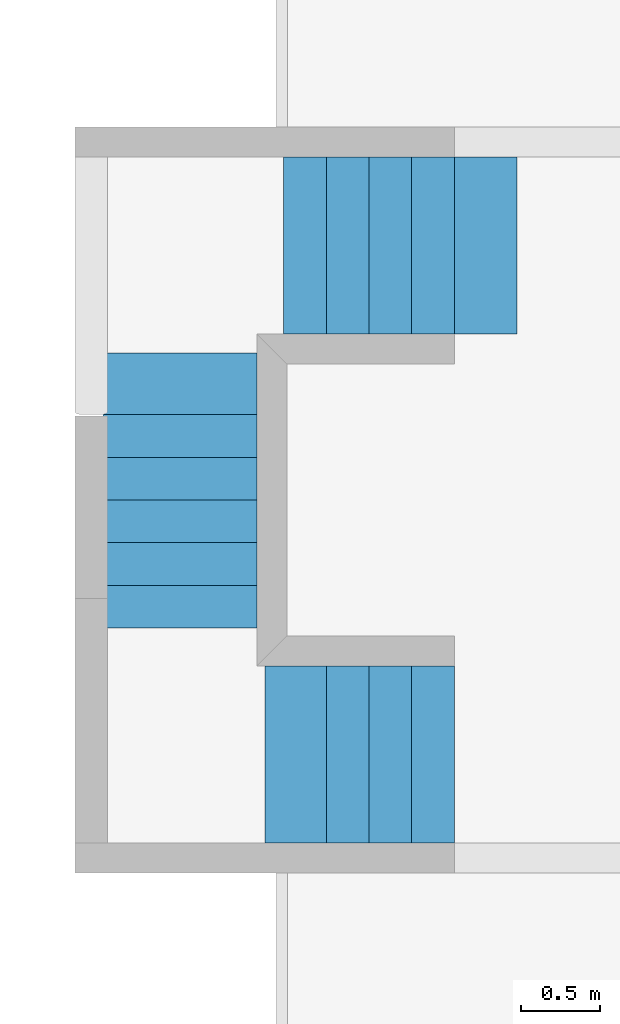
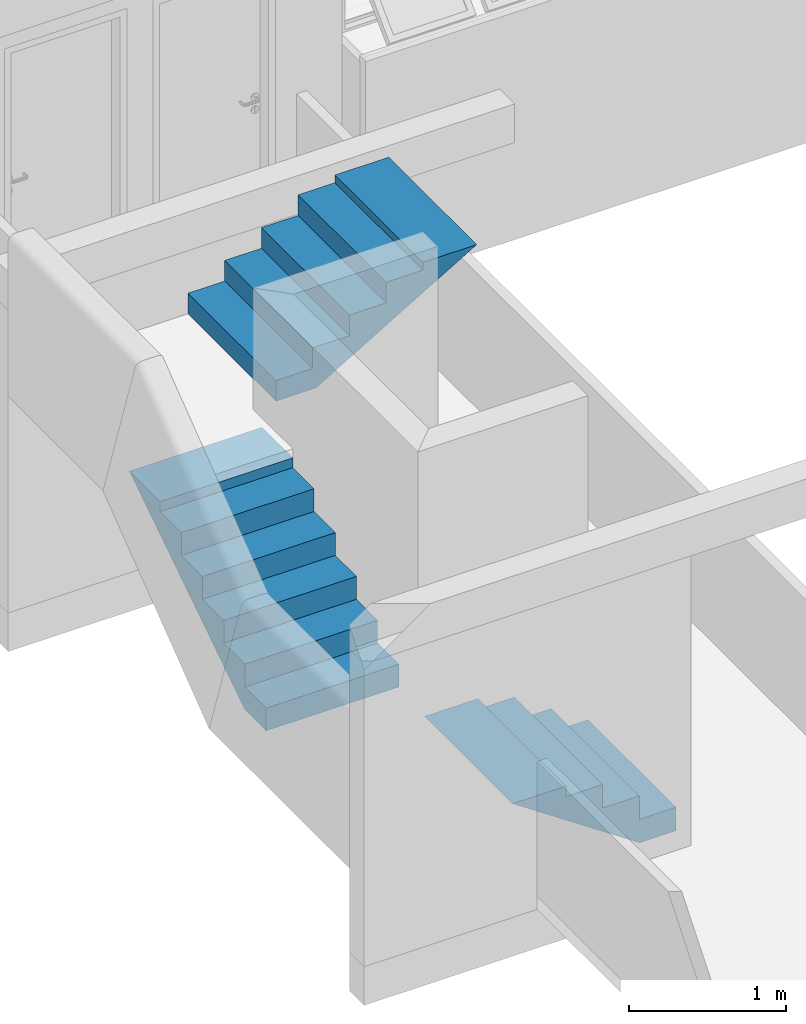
# One storey, part 37 of 37: 3 members, 3 elements without a shape of their own.
"""IFC2X3 building model written with IfcOpenShell, lengths in millimetres."""

import ifcopenshell
import ifcopenshell.guid

model = None  # the IFC model being written
_history = None  # IfcOwnerHistory: only IFC2X3 demands one
_inside = {}  # id of a spatial element -> (the spatial element, [elements in it])
_under = {}  # id of a project, library or spatial element -> (it, [spatial elements below it])
_declared = {}  # id of a project -> (the project, [libraries it declares])
_typed = {}  # id of a type object -> (the type object, [elements of that type])
_made_of = {}  # id of a material, layer set ... -> (it, [elements and type objects made of it])


def new_model(schema):
    """Start an empty IFC model of exactly this schema.

    Asked for "IFC4X3", IfcOpenShell would pick the latest addendum, in which some entities
    have other attributes; the version numbers below select the first issue.
    IFC2X3 requires an IfcOwnerHistory on every rooted entity: one is made here for all.
    """
    global model, _history
    if schema == "IFC4X3":
        model = ifcopenshell.file(schema_version=(4, 3, 0, 0))
    else:
        model = ifcopenshell.file(schema=schema)
    _inside.clear()
    _under.clear()
    _declared.clear()
    _typed.clear()
    _made_of.clear()
    _history = None
    if model.schema == "IFC2X3":
        org = make("IfcOrganization", Name="unknown")
        user = make(
            "IfcPersonAndOrganization",
            ThePerson=make("IfcPerson", FamilyName="unknown"),
            TheOrganization=org,
        )
        app = make(
            "IfcApplication",
            ApplicationDeveloper=org,
            Version="unknown",
            ApplicationFullName="unknown",
            ApplicationIdentifier="unknown",
        )
        _history = make(
            "IfcOwnerHistory",
            OwningUser=user,
            OwningApplication=app,
            ChangeAction="ADDED",
            CreationDate=0,
        )
    return model


def make(cls, **values):
    """One entity of the class cls with the attributes given. An attribute that is None is left unset."""
    return model.create_entity(
        cls, **{name: value for name, value in values.items() if value is not None}
    )


def entity(cls, *values):
    """Any entity or typed value of the class cls, its attributes in the order of the schema. None: left unset."""
    e = model.create_entity(cls)
    for i, value in enumerate(values):
        if value is not None:
            e[i] = value
    return e


def rooted(cls, **values):
    """An entity with a GlobalId (a new one), such as an element, a storey or a relation."""
    return make(cls, GlobalId=ifcopenshell.guid.new(), OwnerHistory=_history, **values)


def si_unit(unit_type, name, prefix=None):
    """IfcSIUnit, for example si_unit("LENGTHUNIT", "METRE", prefix="MILLI")."""
    return make("IfcSIUnit", UnitType=unit_type, Prefix=prefix, Name=name)


def converted_unit(unit_type, name, factor, base, dimensions=None, offset=None):
    """IfcConversionBasedUnit, such as the inch: factor (a typed value) times the base unit."""
    return make(
        "IfcConversionBasedUnit"
        if offset is None
        else "IfcConversionBasedUnitWithOffset",
        ConversionOffset=offset,
        Dimensions=None
        if dimensions is None
        else entity("IfcDimensionalExponents", *dimensions),
        UnitType=unit_type,
        Name=name,
        ConversionFactor=make(
            "IfcMeasureWithUnit", ValueComponent=factor, UnitComponent=base
        ),
    )


def derived_unit(unit_type, elements):
    """IfcDerivedUnit: a product of units, each with its exponent."""
    return make(
        "IfcDerivedUnit",
        Elements=[
            make("IfcDerivedUnitElement", Unit=unit, Exponent=power)
            for unit, power in elements
        ],
        UnitType=unit_type,
    )


def money_unit(currency):
    """IfcMonetaryUnit."""
    return make("IfcMonetaryUnit", Currency=currency)


def assignment(units):
    """IfcUnitAssignment: the units of a project."""
    return None if units is None else make("IfcUnitAssignment", Units=units)


def point(xyz):
    """IfcCartesianPoint."""
    return None if xyz is None else make("IfcCartesianPoint", Coordinates=xyz)


def direction(xyz):
    """IfcDirection."""
    return None if xyz is None else make("IfcDirection", DirectionRatios=xyz)


def frame(location, z_axis=None, x_axis=None):
    """IfcAxis2Placement3D, a coordinate frame: its origin and axes. An axis left out is left unset."""
    return make(
        "IfcAxis2Placement3D",
        Location=point(location),
        Axis=direction(z_axis),
        RefDirection=direction(x_axis),
    )


def origin_with_axes():
    """The frame at (0, 0, 0) with the z axis (0, 0, 1) and the x axis (1, 0, 0) written out."""
    return frame((0.0, 0.0, 0.0), z_axis=(0.0, 0.0, 1.0), x_axis=(1.0, 0.0, 0.0))


def place(relative_to, where):
    """IfcLocalPlacement: puts the frame where relative to a parent placement (None: the world)."""
    return make(
        "IfcLocalPlacement", PlacementRelTo=relative_to, RelativePlacement=where
    )


def context(
    kind, dimensions, precision=None, world=None, true_north=None, identifier=None
):
    """IfcGeometricRepresentationContext, for example the 3D "Model" context."""
    return make(
        "IfcGeometricRepresentationContext",
        ContextIdentifier=identifier,
        ContextType=kind,
        CoordinateSpaceDimension=dimensions,
        Precision=precision,
        WorldCoordinateSystem=world,
        TrueNorth=true_north,
    )


def subcontext(parent, identifier, kind, view, scale=None):
    """IfcGeometricRepresentationSubContext, for example "Body" below "Model"."""
    return make(
        "IfcGeometricRepresentationSubContext",
        ContextIdentifier=identifier,
        ContextType=kind,
        ParentContext=parent,
        TargetScale=scale,
        TargetView=view,
    )


def project(units=None, contexts=None):
    """IfcProject with its units and contexts."""
    return rooted(
        "IfcProject",
        Name="project",
        RepresentationContexts=contexts,
        UnitsInContext=assignment(units),
    )


def spatial(cls, under=None, at=None, **own):
    """A site, building, storey or space (cls), placed at a placement, below another one or the project."""
    s = rooted(cls, ObjectPlacement=at, **own)
    if under is not None:
        _under.setdefault(under.id(), (under, []))[1].append(s)
    return s


def faces_of(points, faces, orient=None, outer=None):
    """IfcFace entities. A face is a list of loops; a loop is a list of indices into points, from 0.

    orient and outer hold one flag for each loop. By default every Orientation is true, the
    first loop of a face is its IfcFaceOuterBound and the others are IfcFaceBound.
    """
    made = []
    for i, loops in enumerate(faces):
        bounds = []
        for j, loop in enumerate(loops):
            is_outer = j == 0 if outer is None else outer[i][j]
            bounds.append(
                make(
                    "IfcFaceOuterBound" if is_outer else "IfcFaceBound",
                    Bound=make("IfcPolyLoop", Polygon=[points[k] for k in loop]),
                    Orientation=True if orient is None else orient[i][j],
                )
            )
        made.append(make("IfcFace", Bounds=bounds))
    return made


def faceted_brep(points, faces, orient=None, outer=None, voids=None):
    """IfcFacetedBrep: a solid bounded by flat faces; with voids (closed shells), ...WithVoids."""
    shared = [point(p) for p in points]
    hull = make("IfcClosedShell", CfsFaces=faces_of(shared, faces, orient, outer))
    if voids is None:
        return make("IfcFacetedBrep", Outer=hull)
    return make(
        "IfcFacetedBrepWithVoids",
        Outer=hull,
        Voids=[
            make(cls, CfsFaces=faces_of(shared, fs, o, b)) for cls, fs, o, b in voids
        ],
    )


def shape(context_of_items, identifier, shape_type, items):
    """IfcShapeRepresentation: the items that make up one representation, for example the "Body"."""
    return make(
        "IfcShapeRepresentation",
        ContextOfItems=context_of_items,
        RepresentationIdentifier=identifier,
        RepresentationType=shape_type,
        Items=items,
    )


def material(Name=None, Category=None):
    """IfcMaterial."""
    return make("IfcMaterial", Name=Name, Category=Category)


def made_of(thing, what):
    """Note that an element or type object is made of a material, layer set ...; save() writes the relation."""
    if what is not None:
        _made_of.setdefault(what.id(), (what, []))[1].append(thing)
    return thing


def type_object(cls, material=None, **own):
    """A type object (cls), such as IfcWallType, which elements share."""
    return made_of(rooted(cls, **own), material)


def element(
    cls,
    number,
    at=None,
    inside=None,
    cuts=None,
    type_object=None,
    material=None,
    context=None,
    identifier="Body",
    shape_type=None,
    held_by="IfcProductDefinitionShape",
    body=None,
    shapes=None,
    **own,
):
    """One element of the class cls, such as IfcWall. Its Tag is "e" and its number.

    at: its placement. inside: the storey or other place that contains it. cuts: it is an
    opening in that element (IfcRelVoidsElement). A single representation is given by context,
    identifier, shape_type and body (its items); several are given by shapes. held_by: the class
    of the entity that holds the representations. save() writes the other relations.
    """
    e = rooted(cls, Tag="e%d" % number, ObjectPlacement=at, **own)
    if body is not None:
        shapes = [shape(context, identifier, shape_type, body)]
    if shapes is not None:
        e.Representation = make(held_by, Representations=shapes)
    if inside is not None:
        _inside.setdefault(inside.id(), (inside, []))[1].append(e)
    if cuts is not None:
        rooted(
            "IfcRelVoidsElement", RelatingBuildingElement=cuts, RelatedOpeningElement=e
        )
    if type_object is not None:
        _typed.setdefault(type_object.id(), (type_object, []))[1].append(e)
    return made_of(e, material)


def aggregate(whole, parts):
    """IfcRelAggregates: a whole, such as a stair, and the parts it consists of."""
    return rooted("IfcRelAggregates", RelatingObject=whole, RelatedObjects=parts)


def save(model, path):
    """Write the relations noted so far, then the file.

    IfcRelAggregates (storeys below a building ...), IfcRelContainedInSpatialStructure (elements
    in a storey), IfcRelDefinesByType, IfcRelAssociatesMaterial and IfcRelDeclares: one each for
    every whole, place, type object, material and project.
    """
    for whole, parts in _under.values():
        aggregate(whole, parts)
    for where, things in _inside.values():
        rooted(
            "IfcRelContainedInSpatialStructure",
            RelatedElements=things,
            RelatingStructure=where,
        )
    for kind, things in _typed.values():
        rooted("IfcRelDefinesByType", RelatedObjects=things, RelatingType=kind)
    for what, things in _made_of.values():
        rooted("IfcRelAssociatesMaterial", RelatedObjects=things, RelatingMaterial=what)
    for by, libraries in _declared.values():
        rooted("IfcRelDeclares", RelatingContext=by, RelatedDefinitions=libraries)
    model.write(path)


model = new_model("IFC2X3")

# Units and contexts
model_context = context("Model", 3, precision=0.01, world=origin_with_axes(), true_north=direction((0.0, 1.0)))
body_context = subcontext(model_context, "Body", "Model", "MODEL_VIEW")
ifc_project = project(units=[si_unit("LENGTHUNIT", "METRE", prefix="MILLI"), si_unit("AREAUNIT", "SQUARE_METRE"), si_unit("VOLUMEUNIT", "CUBIC_METRE"), converted_unit("PLANEANGLEUNIT", "DEGREE", entity("IfcPlaneAngleMeasure", 0.0174532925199), si_unit("PLANEANGLEUNIT", "RADIAN"), dimensions=[0, 0, 0, 0, 0, 0, 0]), money_unit("USD"), converted_unit("TIMEUNIT", "Year", entity("IfcTimeMeasure", 31556926.0), si_unit("TIMEUNIT", "SECOND"), dimensions=[0, 0, 1, 0, 0, 0, 0]), si_unit("MASSUNIT", "GRAM", prefix="KILO"), si_unit("THERMODYNAMICTEMPERATUREUNIT", "DEGREE_CELSIUS"), si_unit("LUMINOUSINTENSITYUNIT", "LUMEN"), si_unit("ENERGYUNIT", "JOULE", prefix="MEGA"), derived_unit("THERMALCONDUCTANCEUNIT", [(si_unit("POWERUNIT", "WATT"), 1), (si_unit("LENGTHUNIT", "METRE"), -1), (si_unit("THERMODYNAMICTEMPERATUREUNIT", "KELVIN"), -1)]), derived_unit("SPECIFICHEATCAPACITYUNIT", [(si_unit("ENERGYUNIT", "JOULE"), 1), (si_unit("MASSUNIT", "GRAM", prefix="KILO"), -1), (si_unit("THERMODYNAMICTEMPERATUREUNIT", "KELVIN"), -1)]), derived_unit("MASSDENSITYUNIT", [(si_unit("MASSUNIT", "GRAM", prefix="KILO"), 1), (si_unit("VOLUMEUNIT", "CUBIC_METRE"), -1)])], contexts=[model_context])

# Site, building, storey
site_placement = place(None, origin_with_axes())
site = spatial("IfcSite", under=ifc_project, at=site_placement, Name="Local", CompositionType="ELEMENT")
building_placement = place(site_placement, origin_with_axes())
building = spatial("IfcBuilding", under=site, at=building_placement, Name="Construção", CompositionType="ELEMENT")
storey_placement = place(building_placement, origin_with_axes())
storey = spatial("IfcBuildingStorey", under=building, at=storey_placement, Name="Primeiro Pavimento", CompositionType="ELEMENT", Elevation=0.0)

# Stair, member
stair_1_placement = place(storey_placement, frame((6210.0, 14130.0, 1710.57075871), z_axis=(0.0, 0.0, 1.0), x_axis=(-1.0, 0.0, 0.0)))
stair_1 = element("IfcStair", 1, at=stair_1_placement, inside=storey, Name="CIRC1-ESCADA-002", ShapeType="NOTDEFINED")
ifc_material = material(Name="Concreto - Estrutural")
member_type = type_object("IfcMemberType", Name="IfcMember", PredefinedType="NOTDEFINED")
member_1_placement = place(stair_1_placement, origin_with_axes())
member_1 = element("IfcMember", 2, at=member_1_placement, type_object=member_type, material=ifc_material, Name="CIRC1-Lance - 005", context=body_context, shape_type="Brep", body=[
    faceted_brep([(-1170.0, 0.0, 518.78088097), (-1170.0, -1120.0, 518.78088097), (-1260.0, -1120.0, 572.098333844), (-1260.0, 0.0, 572.098333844), (-1080.0, 0.0, 465.463428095), (-1080.0, -1120.0, 465.463428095), (-1475.49625339, -1120.0, 699.761793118), (-1350.0, -1120.0, 625.415786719), (-990.0, -1120.0, 412.145975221), (-900.0, -1120.0, 358.828522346), (-810.0, -1120.0, 305.511069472), (-720.0, -1120.0, 252.193616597), (-630.0, -1120.0, 198.876163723), (-540.0, -1120.0, 145.558710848), (-450.0, -1120.0, 92.2412579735), (-360.0, -1120.0, 38.923805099), (-294.296515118, -1120.0, 0.0), (0.0, -1120.0, 0.0), (0.0, -1120.0, 159.952358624), (-270.0, -1120.0, 159.952358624), (-270.0, -1120.0, 319.904717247), (-540.0, -1120.0, 319.904717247), (-540.0, -1120.0, 479.857075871), (-810.0, -1120.0, 479.857075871), (-810.0, -1120.0, 639.809434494), (-1080.0, -1120.0, 639.809434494), (-1080.0, -1120.0, 699.761793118), (-1475.49625339, 0.0, 699.761793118), (-1350.0, 0.0, 625.415786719), (-1080.0, 0.0, 699.761793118), (-1080.0, 0.0, 639.809434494), (-810.0, 0.0, 639.809434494), (-810.0, 0.0, 479.857075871), (-540.0, 0.0, 479.857075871), (-540.0, 0.0, 319.904717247), (-270.0, 0.0, 319.904717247), (-270.0, 0.0, 159.952358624), (0.0, 0.0, 159.952358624), (0.0, 0.0, 0.0), (-294.296515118, 0.0, 0.0), (-360.0, 0.0, 38.923805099), (-450.0, 0.0, 92.2412579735), (-540.0, 0.0, 145.558710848), (-630.0, 0.0, 198.876163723), (-720.0, 0.0, 252.193616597), (-810.0, 0.0, 305.511069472), (-900.0, 0.0, 358.828522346), (-990.0, 0.0, 412.145975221)], [[[0, 1, 2, 3]], [[4, 5, 1, 0]], [[6, 7, 2, 1, 5, 8, 9, 10, 11, 12, 13, 14, 15, 16, 17, 18, 19, 20, 21, 22, 23, 24, 25, 26]], [[6, 27, 28, 3, 2, 7]], [[27, 29, 30, 31, 32, 33, 34, 35, 36, 37, 38, 39, 40, 41, 42, 43, 44, 45, 46, 47, 4, 0, 3, 28]], [[47, 8, 5, 4]], [[46, 9, 8, 47]], [[45, 10, 9, 46]], [[44, 11, 10, 45]], [[43, 12, 11, 44]], [[42, 13, 12, 43]], [[41, 14, 13, 42]], [[40, 15, 14, 41]], [[39, 16, 15, 40]], [[39, 38, 17, 16]], [[37, 18, 17, 38]], [[36, 19, 18, 37]], [[19, 36, 35, 20]], [[34, 21, 20, 35]], [[21, 34, 33, 22]], [[32, 23, 22, 33]], [[23, 32, 31, 24]], [[30, 25, 24, 31]], [[26, 25, 30, 29]], [[6, 26, 29, 27]]]),
])
aggregate(stair_1, [member_1])

stair_2_placement = place(storey_placement, frame((6040.0, 12000.0, 680.0), z_axis=(0.0, 0.0, 1.0), x_axis=(1.0, 0.0, 0.0)))
stair_2 = element("IfcStair", 3, at=stair_2_placement, inside=storey, Name="CIRC1-ESCADA-000", ShapeType="NOTDEFINED")
member_2_placement = place(stair_2_placement, origin_with_axes())
member_2 = element("IfcMember", 4, at=member_2_placement, type_object=member_type, material=ifc_material, Name="CIRC1-Lance - 007", context=body_context, shape_type="Brep", body=[
    faceted_brep([(-975.0, 1620.0, 883.808965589), (-975.0, 1350.0, 883.808965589), (0.0, 1350.0, 883.808965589), (0.0, 1620.0, 883.808965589), (-975.0, 1620.0, 960.570758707), (-975.0, 2011.10758728, 960.570758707), (-975.0, 1620.0, 704.523060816), (-975.0, 1530.0, 645.60246311), (-975.0, 1440.0, 586.681865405), (-975.0, 1350.0, 527.761267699), (-975.0, 1260.0, 468.840669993), (-975.0, 1170.0, 409.920072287), (-975.0, 1080.0, 350.999474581), (-975.0, 990.0, 292.078876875), (-975.0, 900.0, 233.158279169), (-975.0, 810.0, 174.237681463), (-975.0, 720.0, 115.317083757), (-975.0, 630.0, 56.3964860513), (-975.0, 543.855528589, 0.0), (-975.0, 270.0, 0.0), (-975.0, 270.0, 176.761793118), (-975.0, 540.0, 176.761793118), (-975.0, 540.0, 353.523586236), (-975.0, 810.0, 353.523586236), (-975.0, 810.0, 530.285379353), (-975.0, 1080.0, 530.285379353), (-975.0, 1080.0, 707.047172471), (-975.0, 1350.0, 707.047172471), (0.0, 1350.0, 707.047172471), (0.0, 1620.0, 704.523060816), (0.0, 2011.10758728, 960.570758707), (0.0, 1620.0, 960.570758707), (0.0, 1080.0, 707.047172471), (0.0, 1080.0, 530.285379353), (0.0, 810.0, 530.285379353), (0.0, 810.0, 353.523586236), (0.0, 540.0, 353.523586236), (0.0, 540.0, 176.761793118), (0.0, 270.0, 176.761793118), (0.0, 270.0, 0.0), (0.0, 543.855528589, 0.0), (0.0, 630.0, 56.3964860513), (0.0, 720.0, 115.317083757), (0.0, 810.0, 174.237681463), (0.0, 900.0, 233.158279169), (0.0, 990.0, 292.078876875), (0.0, 1080.0, 350.999474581), (0.0, 1170.0, 409.920072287), (0.0, 1260.0, 468.840669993), (0.0, 1350.0, 527.761267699), (0.0, 1440.0, 586.681865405), (0.0, 1530.0, 645.60246311)], [[[0, 1, 2, 3]], [[0, 4, 5, 6, 7, 8, 9, 10, 11, 12, 13, 14, 15, 16, 17, 18, 19, 20, 21, 22, 23, 24, 25, 26, 27, 1]], [[1, 27, 28, 2]], [[29, 30, 31, 3, 2, 28, 32, 33, 34, 35, 36, 37, 38, 39, 40, 41, 42, 43, 44, 45, 46, 47, 48, 49, 50, 51]], [[3, 31, 4, 0]], [[4, 31, 30, 5]], [[6, 5, 30, 29, 51, 7]], [[8, 7, 51, 50]], [[9, 8, 50, 49]], [[10, 9, 49, 48]], [[11, 10, 48, 47]], [[12, 11, 47, 46]], [[13, 12, 46, 45]], [[14, 13, 45, 44]], [[15, 14, 44, 43]], [[16, 15, 43, 42]], [[17, 16, 42, 41]], [[18, 17, 41, 40]], [[19, 18, 40, 39]], [[20, 19, 39, 38]], [[38, 37, 21, 20]], [[22, 21, 37, 36]], [[36, 35, 23, 22]], [[24, 23, 35, 34]], [[34, 33, 25, 24]], [[26, 25, 33, 32]], [[32, 28, 27, 26]]]),
])
aggregate(stair_2, [member_2])

stair_3_placement = place(storey_placement, frame((7290.0, 10910.0, -50.0), z_axis=(0.0, 0.0, 1.0), x_axis=(1.0, 0.0, 0.0)))
stair_3 = element("IfcStair", 5, at=stair_3_placement, inside=storey, Name="CIRC1-ESCADA-001", ShapeType="NOTDEFINED")
member_3_placement = place(stair_3_placement, origin_with_axes())
member_3 = element("IfcMember", 6, at=member_3_placement, type_object=member_type, material=ifc_material, Name="CIRC1-Lance - 005", context=body_context, shape_type="Brep", body=[
    faceted_brep([(-810.0, 1120.0, 547.5), (-810.0, 0.0, 547.5), (-540.0, 0.0, 547.5), (-540.0, 1120.0, 547.5), (-810.0, 1120.0, 630.0), (-810.0, 0.0, 630.0), (-810.0, 0.0, 366.448331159), (-720.0, 0.0, 305.614997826), (-630.0, 0.0, 244.781664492), (-540.0, 0.0, 183.948331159), (-450.0, 0.0, 123.114997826), (-360.0, 0.0, 62.2816644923), (-270.0, 0.0, 1.44833115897), (-267.857263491, 0.0, 0.0), (0.0, 0.0, 0.0), (0.0, 0.0, 182.5), (-270.0, 0.0, 182.5), (-270.0, 0.0, 365.0), (-540.0, 0.0, 365.0), (-1199.91205801, 0.0, 630.0), (-540.0, 1120.0, 365.0), (-270.0, 1120.0, 365.0), (-270.0, 1120.0, 182.5), (0.0, 1120.0, 182.5), (0.0, 1120.0, 0.0), (-267.857263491, 1120.0, 0.0), (-270.0, 1120.0, 1.44833115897), (-360.0, 1120.0, 62.2816644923), (-450.0, 1120.0, 123.114997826), (-540.0, 1120.0, 183.948331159), (-630.0, 1120.0, 244.781664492), (-720.0, 1120.0, 305.614997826), (-810.0, 1120.0, 366.448331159), (-1199.91205801, 1120.0, 630.0)], [[[0, 1, 2, 3]], [[1, 0, 4, 5]], [[6, 7, 8, 9, 10, 11, 12, 13, 14, 15, 16, 17, 18, 2, 1, 5, 19]], [[3, 2, 18, 20]], [[0, 3, 20, 21, 22, 23, 24, 25, 26, 27, 28, 29, 30, 31, 32, 33, 4]], [[4, 33, 19, 5]], [[32, 31, 7, 6, 19, 33]], [[7, 31, 30, 8]], [[8, 30, 29, 9]], [[9, 29, 28, 10]], [[10, 28, 27, 11]], [[11, 27, 26, 12]], [[12, 26, 25, 13]], [[25, 24, 14, 13]], [[14, 24, 23, 15]], [[15, 23, 22, 16]], [[21, 17, 16, 22]], [[17, 21, 20, 18]]]),
])
aggregate(stair_3, [member_3])

save(model, "model.ifc")
